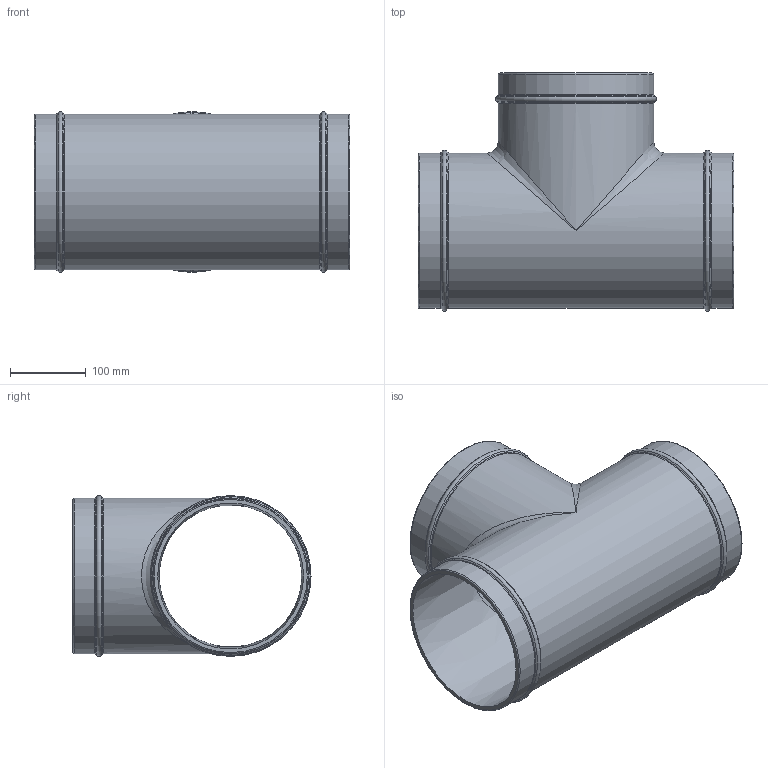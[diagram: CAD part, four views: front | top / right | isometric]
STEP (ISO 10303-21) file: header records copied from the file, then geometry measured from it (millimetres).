
FILE_DESCRIPTION(/* description */ (''),/* implementation_level */ '2;1');
FILE_NAME(/* name */ '2012 A005 00.stp',/* time_stamp */ '2022-11-19T11:23:05+08:00',/* author */ (''),/* organization */ (''),/* preprocessor_version */ 'ST-DEVELOPER v11',/* originating_system */ 'SIEMENS PLM Software NX 7.5',/* authorisation */ '');
FILE_SCHEMA (('CONFIG_CONTROL_DESIGN'));
Length unit declared in the file: millimetre
Products named in the file (1): Admi495Bkrqy
Bounding box: 416 x 314.03 x 212.06 mm (x, y, z)
Volume: 2245569.8 mm3; surface area: 634035.2 mm2
Topology: 1 solids, 1 shells, 31 faces, 72 edges, 39 vertices
Faces by surface type: torus 12, cone 9, cylinder 5, plane 3, bspline 2
Full cylindrical faces by diameter (mm): 205 x5
Entity records: 970 total; most frequent: CARTESIAN_POINT 345, DIRECTION 124, ORIENTED_EDGE 68, AXIS2_PLACEMENT_3D 62, EDGE_LOOP 61, FACE_BOUND 59, EDGE_CURVE 34, ADVANCED_FACE 31
